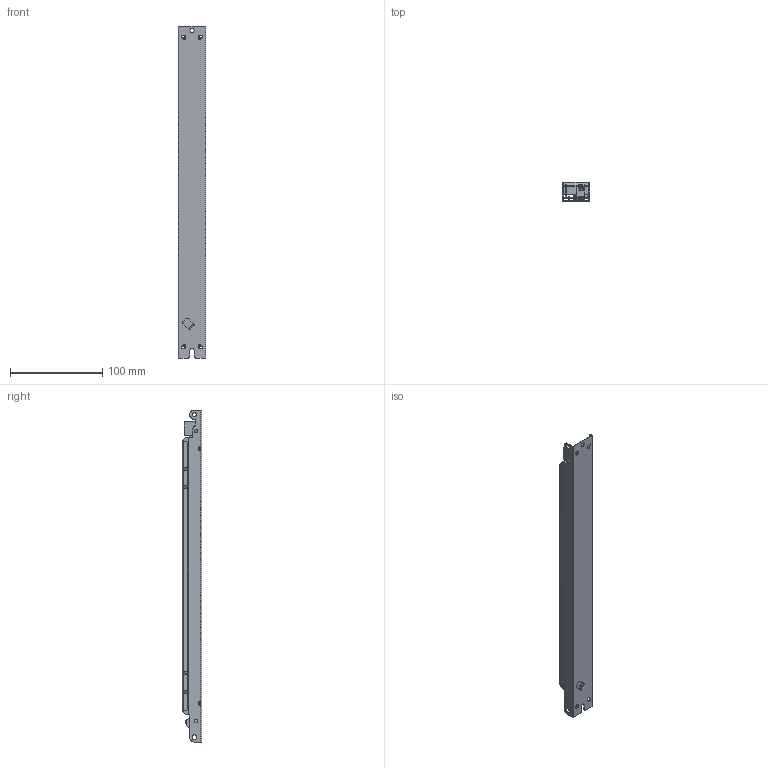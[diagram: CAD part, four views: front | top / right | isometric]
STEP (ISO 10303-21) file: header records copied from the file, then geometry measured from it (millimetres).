
FILE_DESCRIPTION (( 'STEP AP203' ), '1' );
FILE_NAME ('LL165HE-DA-300-1050-IND_3D_yksittäisliittimet ilman DA.STEP', '2023-10-19T12:20:22', ( '' ), ( '' ), 'SwSTEP 2.0', 'SolidWorks 2022', '' );
FILE_SCHEMA (( 'CONFIG_CONTROL_DESIGN' ));
Length unit declared in the file: millimetre
Products named in the file (1): LL165HE-DA-300-1050-IND_3D_yksittäisliittimet ilman DA
Bounding box: 30 x 21 x 360 mm (x, y, z)
Volume: 34866.4 mm3; surface area: 95288.4 mm2
Topology: 5 solids, 5 shells, 939 faces, 2432 edges, 1522 vertices
Faces by surface type: plane 506, cylinder 307, bspline 116, cone 10
Entity records: 33806 total; most frequent: CARTESIAN_POINT 11927, ORIENTED_EDGE 4864, DIRECTION 4022, EDGE_CURVE 2432, LINE 1592, VECTOR 1592, VERTEX_POINT 1522, AXIS2_PLACEMENT_3D 1215
